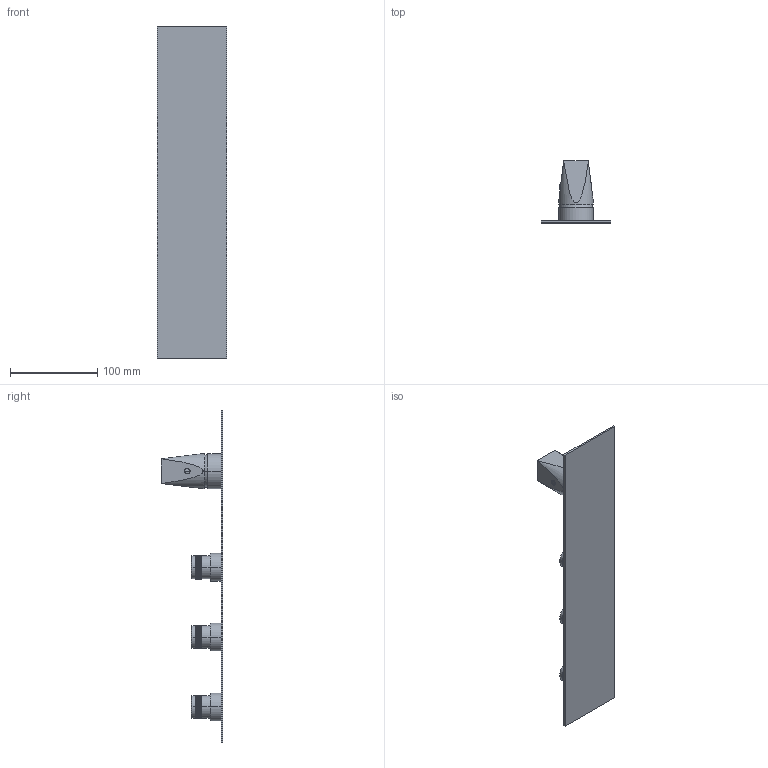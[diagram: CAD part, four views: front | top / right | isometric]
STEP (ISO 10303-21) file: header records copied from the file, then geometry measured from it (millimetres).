
FILE_DESCRIPTION((''),'2;1');
FILE_NAME('49000V321_SW0001','2023-09-21T10:27:32',('carloff'),(''),'CREO PARAMETRIC BY PTC INC, 2022014','CREO PARAMETRIC BY PTC INC, 2022014','');
FILE_SCHEMA(('CONFIG_CONTROL_DESIGN'));
Products named in the file (1): 49000V321_SW0001
Bounding box: 80 x 70.7 x 380 mm (x, y, z)
Volume: 202400.9 mm3; surface area: 80880.9 mm2
Topology: 1 solids, 1 shells, 4949 faces, 12335 edges, 8152 vertices
Faces by surface type: bspline 3842, cylinder 1052, plane 28, torus 16, sphere 8, cone 3
Entity records: 209912 total; most frequent: CARTESIAN_POINT 118216, ORIENTED_EDGE 24654, EDGE_CURVE 12327, VERTEX_POINT 8152, B_SPLINE_CURVE_WITH_KNOTS 7792, DIRECTION 7206, EDGE_LOOP 5723, FACE_OUTER_BOUND 4949
